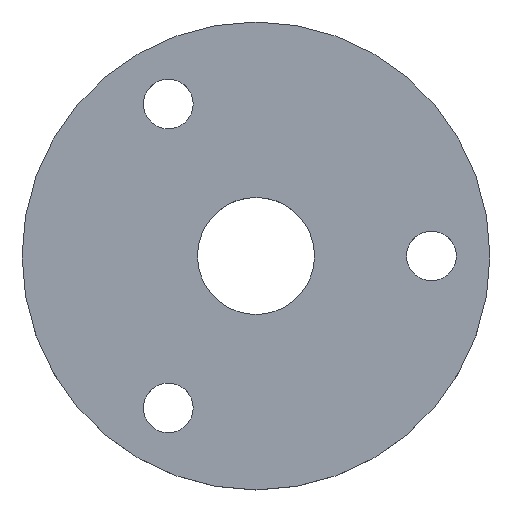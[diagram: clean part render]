
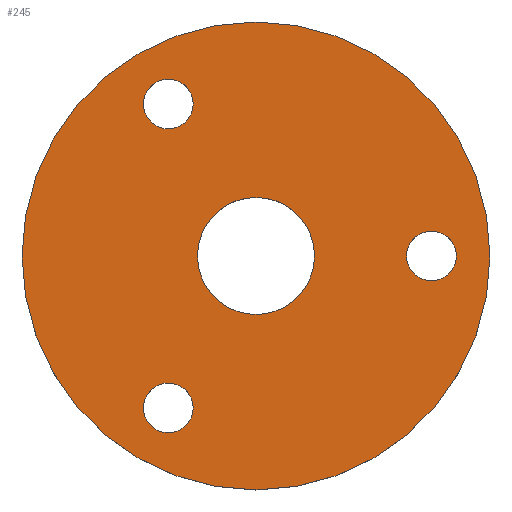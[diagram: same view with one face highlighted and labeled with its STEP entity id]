
A CAD part, top view. The second image highlights one B-rep face of the part: STEP entity #245.
In plain terms, the highlighted planar face has unit normal (0, 0, 1).
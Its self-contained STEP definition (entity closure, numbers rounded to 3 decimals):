
#24 = VERTEX_POINT('',#25);
#25 = CARTESIAN_POINT('',(16.,0.,3.));
#32 = CYLINDRICAL_SURFACE('',#33,16.);
#33 = AXIS2_PLACEMENT_3D('',#34,#35,#36);
#34 = CARTESIAN_POINT('',(0.,0.,0.));
#35 = DIRECTION('',(-0.,-0.,-1.));
#36 = DIRECTION('',(1.,0.,0.));
#51 = EDGE_CURVE('',#24,#24,#52,.T.);
#52 = SURFACE_CURVE('',#53,(#58,#65),.PCURVE_S1.);
#53 = CIRCLE('',#54,16.);
#54 = AXIS2_PLACEMENT_3D('',#55,#56,#57);
#55 = CARTESIAN_POINT('',(0.,0.,3.));
#56 = DIRECTION('',(0.,0.,1.));
#57 = DIRECTION('',(1.,0.,0.));
#58 = PCURVE('',#32,#59);
#59 = DEFINITIONAL_REPRESENTATION('',(#60),#64);
#60 = LINE('',#61,#62);
#61 = CARTESIAN_POINT('',(-0.,-3.));
#62 = VECTOR('',#63,1.);
#63 = DIRECTION('',(-1.,0.));
#64 = ( GEOMETRIC_REPRESENTATION_CONTEXT(2) 
PARAMETRIC_REPRESENTATION_CONTEXT() REPRESENTATION_CONTEXT('2D SPACE',''
  ) );
#65 = PCURVE('',#66,#71);
#66 = PLANE('',#67);
#67 = AXIS2_PLACEMENT_3D('',#68,#69,#70);
#68 = CARTESIAN_POINT('',(0.,0.,3.));
#69 = DIRECTION('',(0.,0.,1.));
#70 = DIRECTION('',(1.,0.,-0.));
#71 = DEFINITIONAL_REPRESENTATION('',(#72),#76);
#72 = CIRCLE('',#73,16.);
#73 = AXIS2_PLACEMENT_2D('',#74,#75);
#74 = CARTESIAN_POINT('',(0.,0.));
#75 = DIRECTION('',(1.,0.));
#76 = ( GEOMETRIC_REPRESENTATION_CONTEXT(2) 
PARAMETRIC_REPRESENTATION_CONTEXT() REPRESENTATION_CONTEXT('2D SPACE',''
  ) );
#133 = CYLINDRICAL_SURFACE('',#134,1.7);
#134 = AXIS2_PLACEMENT_3D('',#135,#136,#137);
#135 = CARTESIAN_POINT('',(-6.,-10.392,3.));
#136 = DIRECTION('',(0.,0.,-1.));
#137 = DIRECTION('',(-1.,0.,0.));
#164 = CYLINDRICAL_SURFACE('',#165,4.);
#165 = AXIS2_PLACEMENT_3D('',#166,#167,#168);
#166 = CARTESIAN_POINT('',(0.,0.,0.));
#167 = DIRECTION('',(-0.,-0.,-1.));
#168 = DIRECTION('',(1.,0.,0.));
#199 = CYLINDRICAL_SURFACE('',#200,1.7);
#200 = AXIS2_PLACEMENT_3D('',#201,#202,#203);
#201 = CARTESIAN_POINT('',(12.,0.,3.));
#202 = DIRECTION('',(0.,0.,-1.));
#203 = DIRECTION('',(-1.,0.,0.));
#234 = CYLINDRICAL_SURFACE('',#235,1.7);
#235 = AXIS2_PLACEMENT_3D('',#236,#237,#238);
#236 = CARTESIAN_POINT('',(-6.,10.392,3.));
#237 = DIRECTION('',(0.,0.,-1.));
#238 = DIRECTION('',(-1.,0.,0.));
#245 = ADVANCED_FACE('',(#246,#249,#279,#309,#339),#66,.T.);
#246 = FACE_BOUND('',#247,.T.);
#247 = EDGE_LOOP('',(#248));
#248 = ORIENTED_EDGE('',*,*,#51,.T.);
#249 = FACE_BOUND('',#250,.T.);
#250 = EDGE_LOOP('',(#251));
#251 = ORIENTED_EDGE('',*,*,#252,.T.);
#252 = EDGE_CURVE('',#253,#253,#255,.T.);
#253 = VERTEX_POINT('',#254);
#254 = CARTESIAN_POINT('',(-7.7,-10.392,3.));
#255 = SURFACE_CURVE('',#256,(#261,#272),.PCURVE_S1.);
#256 = CIRCLE('',#257,1.7);
#257 = AXIS2_PLACEMENT_3D('',#258,#259,#260);
#258 = CARTESIAN_POINT('',(-6.,-10.392,3.));
#259 = DIRECTION('',(0.,0.,-1.));
#260 = DIRECTION('',(-1.,0.,0.));
#261 = PCURVE('',#66,#262);
#262 = DEFINITIONAL_REPRESENTATION('',(#263),#271);
#263 = ( BOUNDED_CURVE() B_SPLINE_CURVE(2,(#264,#265,#266,#267,#268,#269
,#270),.UNSPECIFIED.,.T.,.F.) B_SPLINE_CURVE_WITH_KNOTS((1,2,2,2,2,1),(
    -2.094,0.,2.094,4.189,6.283,
8.378),.UNSPECIFIED.) CURVE() GEOMETRIC_REPRESENTATION_ITEM() 
RATIONAL_B_SPLINE_CURVE((1.,0.5,1.,0.5,1.,0.5,1.)) REPRESENTATION_ITEM(
  '') );
#264 = CARTESIAN_POINT('',(-7.7,-10.392));
#265 = CARTESIAN_POINT('',(-7.7,-7.448));
#266 = CARTESIAN_POINT('',(-5.15,-8.92));
#267 = CARTESIAN_POINT('',(-2.6,-10.392));
#268 = CARTESIAN_POINT('',(-5.15,-11.865));
#269 = CARTESIAN_POINT('',(-7.7,-13.337));
#270 = CARTESIAN_POINT('',(-7.7,-10.392));
#271 = ( GEOMETRIC_REPRESENTATION_CONTEXT(2) 
PARAMETRIC_REPRESENTATION_CONTEXT() REPRESENTATION_CONTEXT('2D SPACE',''
  ) );
#272 = PCURVE('',#133,#273);
#273 = DEFINITIONAL_REPRESENTATION('',(#274),#278);
#274 = LINE('',#275,#276);
#275 = CARTESIAN_POINT('',(0.,0.));
#276 = VECTOR('',#277,1.);
#277 = DIRECTION('',(1.,0.));
#278 = ( GEOMETRIC_REPRESENTATION_CONTEXT(2) 
PARAMETRIC_REPRESENTATION_CONTEXT() REPRESENTATION_CONTEXT('2D SPACE',''
  ) );
#279 = FACE_BOUND('',#280,.T.);
#280 = EDGE_LOOP('',(#281));
#281 = ORIENTED_EDGE('',*,*,#282,.T.);
#282 = EDGE_CURVE('',#283,#283,#285,.T.);
#283 = VERTEX_POINT('',#284);
#284 = CARTESIAN_POINT('',(4.,0.,3.));
#285 = SURFACE_CURVE('',#286,(#291,#302),.PCURVE_S1.);
#286 = CIRCLE('',#287,4.);
#287 = AXIS2_PLACEMENT_3D('',#288,#289,#290);
#288 = CARTESIAN_POINT('',(0.,0.,3.));
#289 = DIRECTION('',(0.,0.,-1.));
#290 = DIRECTION('',(1.,0.,0.));
#291 = PCURVE('',#66,#292);
#292 = DEFINITIONAL_REPRESENTATION('',(#293),#301);
#293 = ( BOUNDED_CURVE() B_SPLINE_CURVE(2,(#294,#295,#296,#297,#298,#299
,#300),.UNSPECIFIED.,.T.,.F.) B_SPLINE_CURVE_WITH_KNOTS((1,2,2,2,2,1),(
    -2.094,0.,2.094,4.189,6.283,
8.378),.UNSPECIFIED.) CURVE() GEOMETRIC_REPRESENTATION_ITEM() 
RATIONAL_B_SPLINE_CURVE((1.,0.5,1.,0.5,1.,0.5,1.)) REPRESENTATION_ITEM(
  '') );
#294 = CARTESIAN_POINT('',(4.,0.));
#295 = CARTESIAN_POINT('',(4.,-6.928));
#296 = CARTESIAN_POINT('',(-2.,-3.464));
#297 = CARTESIAN_POINT('',(-8.,0.));
#298 = CARTESIAN_POINT('',(-2.,3.464));
#299 = CARTESIAN_POINT('',(4.,6.928));
#300 = CARTESIAN_POINT('',(4.,0.));
#301 = ( GEOMETRIC_REPRESENTATION_CONTEXT(2) 
PARAMETRIC_REPRESENTATION_CONTEXT() REPRESENTATION_CONTEXT('2D SPACE',''
  ) );
#302 = PCURVE('',#164,#303);
#303 = DEFINITIONAL_REPRESENTATION('',(#304),#308);
#304 = LINE('',#305,#306);
#305 = CARTESIAN_POINT('',(-6.283,-3.));
#306 = VECTOR('',#307,1.);
#307 = DIRECTION('',(1.,-0.));
#308 = ( GEOMETRIC_REPRESENTATION_CONTEXT(2) 
PARAMETRIC_REPRESENTATION_CONTEXT() REPRESENTATION_CONTEXT('2D SPACE',''
  ) );
#309 = FACE_BOUND('',#310,.T.);
#310 = EDGE_LOOP('',(#311));
#311 = ORIENTED_EDGE('',*,*,#312,.T.);
#312 = EDGE_CURVE('',#313,#313,#315,.T.);
#313 = VERTEX_POINT('',#314);
#314 = CARTESIAN_POINT('',(10.3,0.,3.));
#315 = SURFACE_CURVE('',#316,(#321,#332),.PCURVE_S1.);
#316 = CIRCLE('',#317,1.7);
#317 = AXIS2_PLACEMENT_3D('',#318,#319,#320);
#318 = CARTESIAN_POINT('',(12.,0.,3.));
#319 = DIRECTION('',(0.,0.,-1.));
#320 = DIRECTION('',(-1.,0.,0.));
#321 = PCURVE('',#66,#322);
#322 = DEFINITIONAL_REPRESENTATION('',(#323),#331);
#323 = ( BOUNDED_CURVE() B_SPLINE_CURVE(2,(#324,#325,#326,#327,#328,#329
,#330),.UNSPECIFIED.,.T.,.F.) B_SPLINE_CURVE_WITH_KNOTS((1,2,2,2,2,1),(
    -2.094,0.,2.094,4.189,6.283,
8.378),.UNSPECIFIED.) CURVE() GEOMETRIC_REPRESENTATION_ITEM() 
RATIONAL_B_SPLINE_CURVE((1.,0.5,1.,0.5,1.,0.5,1.)) REPRESENTATION_ITEM(
  '') );
#324 = CARTESIAN_POINT('',(10.3,0.));
#325 = CARTESIAN_POINT('',(10.3,2.944));
#326 = CARTESIAN_POINT('',(12.85,1.472));
#327 = CARTESIAN_POINT('',(15.4,0.));
#328 = CARTESIAN_POINT('',(12.85,-1.472));
#329 = CARTESIAN_POINT('',(10.3,-2.944));
#330 = CARTESIAN_POINT('',(10.3,0.));
#331 = ( GEOMETRIC_REPRESENTATION_CONTEXT(2) 
PARAMETRIC_REPRESENTATION_CONTEXT() REPRESENTATION_CONTEXT('2D SPACE',''
  ) );
#332 = PCURVE('',#199,#333);
#333 = DEFINITIONAL_REPRESENTATION('',(#334),#338);
#334 = LINE('',#335,#336);
#335 = CARTESIAN_POINT('',(0.,0.));
#336 = VECTOR('',#337,1.);
#337 = DIRECTION('',(1.,0.));
#338 = ( GEOMETRIC_REPRESENTATION_CONTEXT(2) 
PARAMETRIC_REPRESENTATION_CONTEXT() REPRESENTATION_CONTEXT('2D SPACE',''
  ) );
#339 = FACE_BOUND('',#340,.T.);
#340 = EDGE_LOOP('',(#341));
#341 = ORIENTED_EDGE('',*,*,#342,.T.);
#342 = EDGE_CURVE('',#343,#343,#345,.T.);
#343 = VERTEX_POINT('',#344);
#344 = CARTESIAN_POINT('',(-7.7,10.392,3.));
#345 = SURFACE_CURVE('',#346,(#351,#362),.PCURVE_S1.);
#346 = CIRCLE('',#347,1.7);
#347 = AXIS2_PLACEMENT_3D('',#348,#349,#350);
#348 = CARTESIAN_POINT('',(-6.,10.392,3.));
#349 = DIRECTION('',(0.,0.,-1.));
#350 = DIRECTION('',(-1.,0.,0.));
#351 = PCURVE('',#66,#352);
#352 = DEFINITIONAL_REPRESENTATION('',(#353),#361);
#353 = ( BOUNDED_CURVE() B_SPLINE_CURVE(2,(#354,#355,#356,#357,#358,#359
,#360),.UNSPECIFIED.,.T.,.F.) B_SPLINE_CURVE_WITH_KNOTS((1,2,2,2,2,1),(
    -2.094,0.,2.094,4.189,6.283,
8.378),.UNSPECIFIED.) CURVE() GEOMETRIC_REPRESENTATION_ITEM() 
RATIONAL_B_SPLINE_CURVE((1.,0.5,1.,0.5,1.,0.5,1.)) REPRESENTATION_ITEM(
  '') );
#354 = CARTESIAN_POINT('',(-7.7,10.392));
#355 = CARTESIAN_POINT('',(-7.7,13.337));
#356 = CARTESIAN_POINT('',(-5.15,11.865));
#357 = CARTESIAN_POINT('',(-2.6,10.392));
#358 = CARTESIAN_POINT('',(-5.15,8.92));
#359 = CARTESIAN_POINT('',(-7.7,7.448));
#360 = CARTESIAN_POINT('',(-7.7,10.392));
#361 = ( GEOMETRIC_REPRESENTATION_CONTEXT(2) 
PARAMETRIC_REPRESENTATION_CONTEXT() REPRESENTATION_CONTEXT('2D SPACE',''
  ) );
#362 = PCURVE('',#234,#363);
#363 = DEFINITIONAL_REPRESENTATION('',(#364),#368);
#364 = LINE('',#365,#366);
#365 = CARTESIAN_POINT('',(0.,0.));
#366 = VECTOR('',#367,1.);
#367 = DIRECTION('',(1.,0.));
#368 = ( GEOMETRIC_REPRESENTATION_CONTEXT(2) 
PARAMETRIC_REPRESENTATION_CONTEXT() REPRESENTATION_CONTEXT('2D SPACE',''
  ) );
